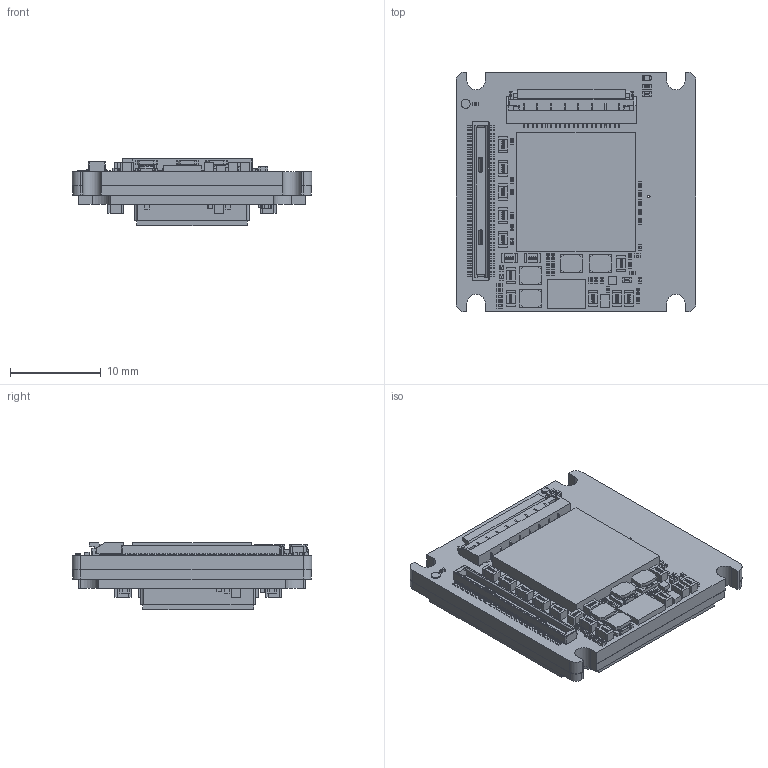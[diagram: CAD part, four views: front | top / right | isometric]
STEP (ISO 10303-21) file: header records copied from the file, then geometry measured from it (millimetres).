
FILE_DESCRIPTION (( 'STEP AP214' ), '1' );
FILE_NAME ('Alvium-CSI2-Bare-Board-E2VEV76Cx6x.STEP', '2022-10-24T10:40:56', ( '' ), ( '' ), 'SwSTEP 2.0', 'SolidWorks 2021', '' );
FILE_SCHEMA (( 'AUTOMOTIVE_DESIGN' ));
Length unit declared in the file: millimetre
Products named in the file (1): Alvium-CSI2-Bare-Board-E2VEV76Cx6x
Bounding box: 26.4 x 26.4 x 7.4 mm (x, y, z)
Volume: 2995 mm3; surface area: 3895.6 mm2
Topology: 112 solids, 112 shells, 7337 faces, 19107 edges, 12448 vertices
Faces by surface type: plane 3924, bspline 2702, cylinder 663, torus 28, sphere 16, cone 4
Entity records: 456571 total; most frequent: CARTESIAN_POINT 212895, ORIENTED_EDGE 38182, DIRECTION 24253, EDGE_CURVE 19091, VERTEX_POINT 12448, LINE 12257, VECTOR 12257, EDGE_LOOP 7825
